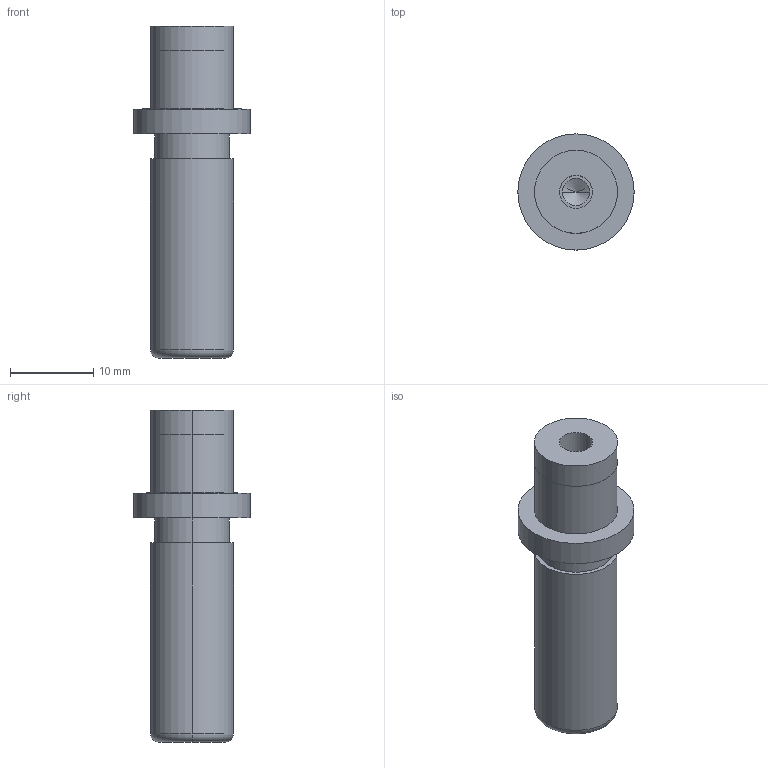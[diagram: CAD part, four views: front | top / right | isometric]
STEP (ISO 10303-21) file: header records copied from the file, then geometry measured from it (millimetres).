
FILE_DESCRIPTION(/* description */ (''),/* implementation_level */ '2;1');
FILE_NAME(/* name */ '3d_sgpw10-30_05297_r00.stp',/* time_stamp */ '2011-01-10T14:11:06+09:00',/* author */ ('MISUMI'),/* organization */ (''),/* preprocessor_version */ 'ST-DEVELOPER v11',/* originating_system */ 'UGS - NX 5.0',/* authorisation */ '');
FILE_SCHEMA (('CONFIG_CONTROL_DESIGN'));
Length unit declared in the file: millimetre
Products named in the file (1): 3d_sgpw10-30_05297_r00
Bounding box: 14 x 14 x 40 mm (x, y, z)
Volume: 3025.6 mm3; surface area: 1904.1 mm2
Topology: 1 solids, 1 shells, 31 faces, 64 edges, 38 vertices
Faces by surface type: cylinder 18, plane 7, cone 4, torus 2
Entity records: 890 total; most frequent: DIRECTION 162, CARTESIAN_POINT 130, ORIENTED_EDGE 120, AXIS2_PLACEMENT_3D 70, EDGE_CURVE 60, EDGE_LOOP 38, CIRCLE 38, VERTEX_POINT 38
